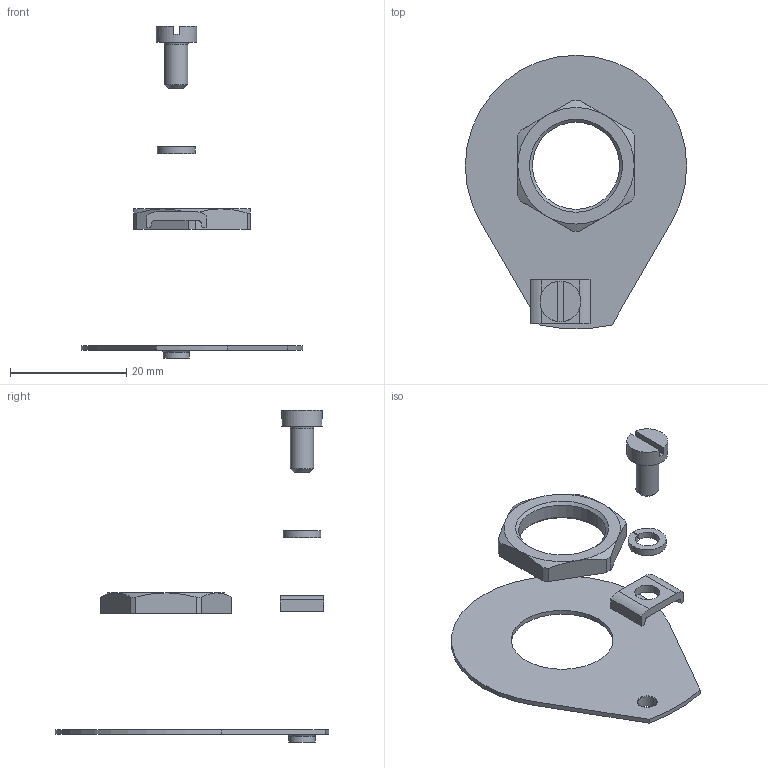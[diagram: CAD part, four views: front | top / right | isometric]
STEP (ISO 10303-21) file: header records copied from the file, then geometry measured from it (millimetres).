
FILE_DESCRIPTION(/* description */ ('Unknown'),/* implementation_level */ '2;1');
FILE_NAME(/* name */ 'ZS4 3_8',/* time_stamp */ '2021-10-13T11:44:01+02:00',/* author */ ('Unknown'),/* organization */ ('Unknown'),/* preprocessor_version */ 'ST-DEVELOPER v16.7',/* originating_system */ 'Solid Edge',/* authorisation */ 'Unknown');
FILE_SCHEMA (('AUTOMOTIVE_DESIGN {1 0 10303 214 3 1 1}'));
Length unit declared in the file: millimetre
Products named in the file (1): ZS4 3_8
Bounding box: 38 x 46.92 x 57 mm (x, y, z)
Volume: 1764.4 mm3; surface area: 3585.2 mm2
Topology: 5 solids, 5 shells, 67 faces, 155 edges, 100 vertices
Faces by surface type: plane 34, cylinder 21, cone 9, torus 3
Full cylindrical faces by diameter (mm): 3.242 x1, 4 x1, 4.3 x1, 4.5 x1, 7 x1, 14.95 x1, 17.5 x1
Entity records: 2198 total; most frequent: CARTESIAN_POINT 340, DIRECTION 324, ORIENTED_EDGE 278, EDGE_CURVE 139, AXIS2_PLACEMENT_3D 129, VERTEX_POINT 97, EDGE_LOOP 90, FACE_BOUND 90
